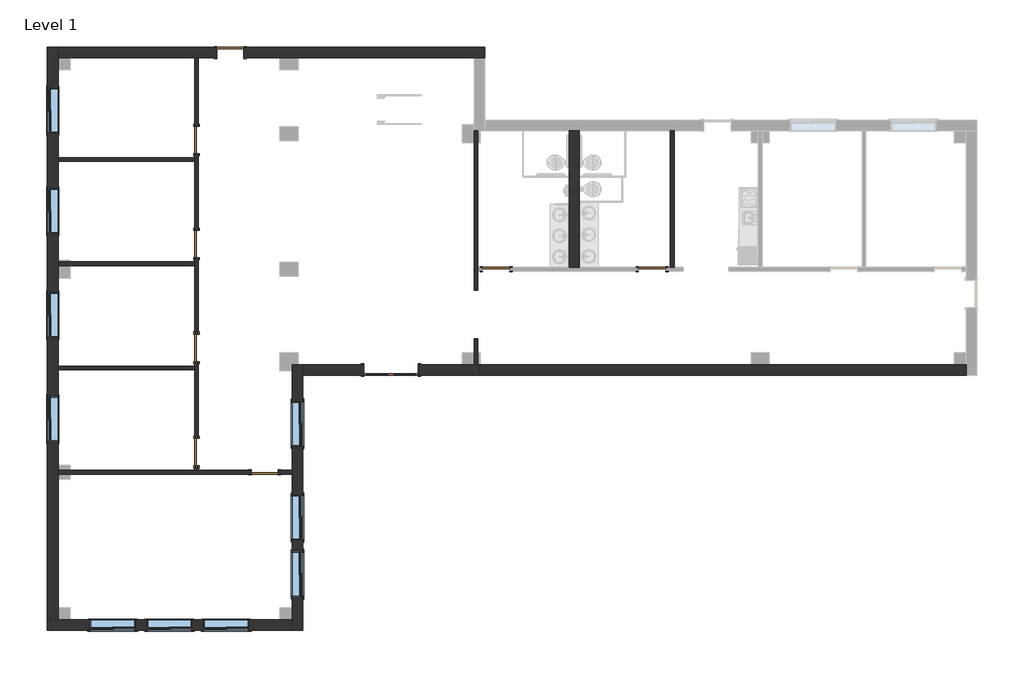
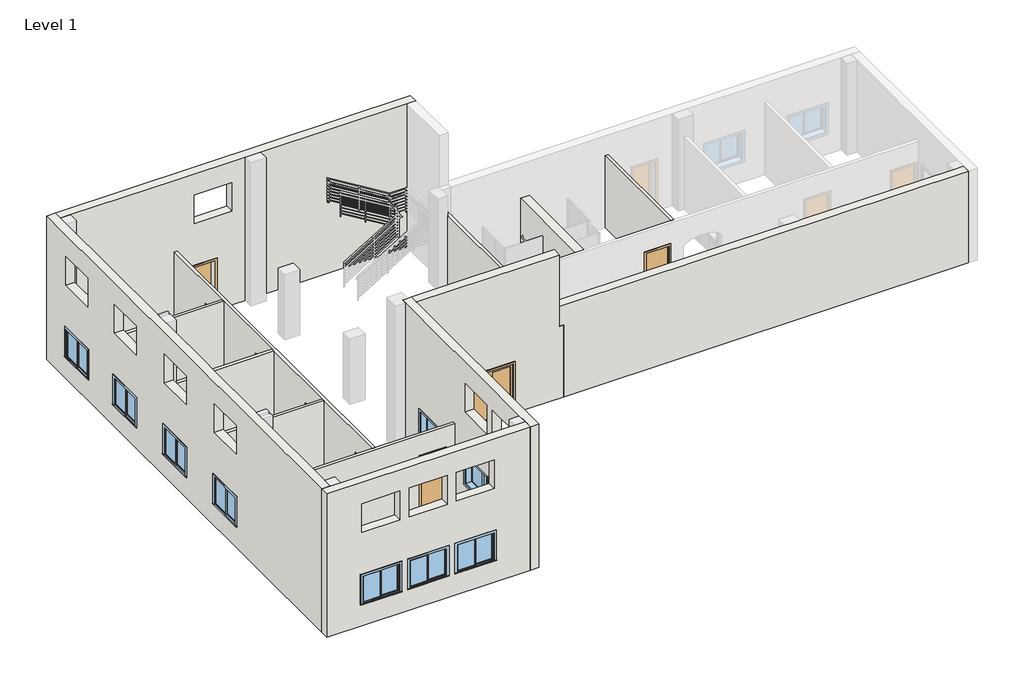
# One storey, part 1 of 2: 15 walls, 10 windows, 9 doors.
"""IFC4 building model written with IfcOpenShell, lengths in millimetres."""

from ifc_helpers import new_model, si_unit, origin, origin_with_axes, place, context, project, spatial, polyline, outline, extrude, faceted_brep, transform, mapped, element, save
from components import door_ed2c6a3f, door_cc5399a4, door_eb9f8b14, door_88503111, window_8313e728

model = new_model("IFC4")

# Units and contexts
model_context = context("Model", 3, world=origin())
ifc_project = project(units=[si_unit("LENGTHUNIT", "METRE", prefix="MILLI")], contexts=[model_context])

# Site, building, storey
site = spatial("IfcSite", under=ifc_project)
building = spatial("IfcBuilding", under=site)
storey = spatial("IfcBuildingStorey", under=building, Name="Level 1", Elevation=0.0)

# Doors
placement = place(None, origin())
door_shape = door_ed2c6a3f(model_context)
element("IfcDoor", 1, ObjectType="Double-Glass 1 : 72\" x 84\"", at=placement, inside=storey, context=model_context, shape_type="MappedRepresentation", body=[
    mapped(door_shape, transform((-2441.8329052, 126.9792924, 0.0), x_axis=(-1.0, 0.0, 0.0), y_axis=(0.0, -1.0, 0.0), z_axis=(0.0, 0.0, 1.0))),
])
door_2_shape = door_cc5399a4(model_context)
element("IfcDoor", 2, ObjectType="Single-Flush : 36\" x 84\"", at=placement, inside=storey, context=model_context, shape_type="MappedRepresentation", body=[
    mapped(door_2_shape, transform((-7821.0766552, 10744.9730424, 0.0), x_axis=(-1.0, 0.0, 0.0), y_axis=(0.0, -1.0, 0.0), z_axis=(0.0, 0.0, 1.0))),
])
door_3_shape = door_eb9f8b14(model_context)
element("IfcDoor", 3, ObjectType="Single-Flush : 36\" x 84\"", at=placement, inside=storey, context=model_context, shape_type="MappedRepresentation", body=[
    mapped(door_3_shape, transform((-6668.5516552, -3294.8769576, 0.0), x_axis=(1.0, 0.0, 0.0), y_axis=(0.0, 1.0, 0.0), z_axis=(0.0, 0.0, 1.0))),
])
element("IfcDoor", 4, ObjectType="Single-Flush : 36\" x 84\"", at=placement, inside=storey, context=model_context, shape_type="MappedRepresentation", body=[
    mapped(door_3_shape, transform((-8949.7891552, -2623.3644576, 0.0), x_axis=(0.0, -1.0, 0.0), y_axis=(1.0, 0.0, 0.0), z_axis=(0.0, 0.0, 1.0))),
])
element("IfcDoor", 5, ObjectType="Single-Flush : 36\" x 84\"", at=placement, inside=storey, context=model_context, shape_type="MappedRepresentation", body=[
    mapped(door_3_shape, transform((-8949.7891552, 862.7855424, 0.0), x_axis=(0.0, -1.0, 0.0), y_axis=(1.0, 0.0, 0.0), z_axis=(0.0, 0.0, 1.0))),
])
element("IfcDoor", 6, ObjectType="Single-Flush : 36\" x 84\"", at=placement, inside=storey, context=model_context, shape_type="MappedRepresentation", body=[
    mapped(door_3_shape, transform((-8949.7891552, 4339.4105424, 0.0), x_axis=(0.0, -1.0, 0.0), y_axis=(1.0, 0.0, 0.0), z_axis=(0.0, 0.0, 1.0))),
])
element("IfcDoor", 7, ObjectType="Single-Flush : 36\" x 84\"", at=placement, inside=storey, context=model_context, shape_type="MappedRepresentation", body=[
    mapped(door_3_shape, transform((-8949.7891552, 7820.7980424, 0.0), x_axis=(0.0, -1.0, 0.0), y_axis=(1.0, 0.0, 0.0), z_axis=(0.0, 0.0, 1.0))),
])
element("IfcDoor", 8, ObjectType="Single-Flush : 36\" x 84\"", at=placement, inside=storey, context=model_context, shape_type="MappedRepresentation", body=[
    mapped(door_3_shape, transform((1075.2733448, 3496.4480424, 0.0), x_axis=(-1.0, 0.0, 0.0), y_axis=(0.0, -1.0, 0.0), z_axis=(0.0, 0.0, 1.0))),
])
door_4_shape = door_88503111(model_context)
element("IfcDoor", 9, ObjectType="Single-Flush : 36\" x 84\"", at=placement, inside=storey, context=model_context, shape_type="MappedRepresentation", body=[
    mapped(door_4_shape, transform((6294.9733448, 3496.4480424, 0.0), x_axis=(1.0, 0.0, 0.0), y_axis=(0.0, 1.0, 0.0), z_axis=(0.0, 0.0, 1.0))),
])

# Walls
element("IfcWall", 10, ObjectType="Exterior - Brick on Mtl. Stud", at=placement, inside=storey, context=model_context, shape_type="Brep", body=[
    faceted_brep([(-5754.1516552, 300.8105424, 0.0), (-5754.1516552, 97.6105424, 0.0), (-5754.1516552, -3232.9644576, 0.0), (-5754.1516552, -3356.7894576, 0.0), (-5754.1516552, -7827.1894576, 0.0), (-5754.1516552, -8233.5894576, 0.0), (-5754.1516552, -8586.0144576, 0.0), (-5754.1516552, -8586.0144576, 6100.0), (-5754.1516552, -8233.5894576, 6100.0), (-5754.1516552, -7827.1894576, 6100.0), (-5754.1516552, -3356.7894576, 6100.0), (-5754.1516552, -3232.9644576, 6100.0), (-5754.1516552, 97.6105424, 6100.0), (-5754.1516552, 300.8105424, 6100.0), (-5754.1516552, -7471.5894576, 2133.6), (-5754.1516552, -7471.5894576, 914.4), (-5754.1516552, -5947.5894576, 914.4), (-5754.1516552, -5947.5894576, 2133.6), (-5754.1516552, -5572.9394576, 2133.6), (-5754.1516552, -5572.9394576, 914.4), (-5754.1516552, -4048.9394576, 914.4), (-5754.1516552, -4048.9394576, 2133.6), (-5754.1516552, -2439.2144576, 2133.6), (-5754.1516552, -2439.2144576, 914.4), (-5754.1516552, -915.2144576, 914.4), (-5754.1516552, -915.2144576, 2133.6), (-5754.1516552, -5572.9394576, 5193.6), (-5754.1516552, -5572.9394576, 3974.4), (-5754.1516552, -4048.9394576, 3974.4), (-5754.1516552, -4048.9394576, 5193.6), (-5754.1516552, -7471.5894576, 5193.6), (-5754.1516552, -7471.5894576, 3974.4), (-5754.1516552, -5947.5894576, 3974.4), (-5754.1516552, -5947.5894576, 5193.6), (-5401.7266552, 300.8105424, 0.0), (-5401.7266552, 300.8105424, 6100.0), (-5401.7266552, -51.6144576, 6100.0), (-5401.7266552, -8586.0144576, 6100.0), (-5401.7266552, -8586.0144576, 0.0), (-5401.7266552, -51.6144576, 0.0), (-5401.7266552, -7471.5894576, 2133.6), (-5401.7266552, -5947.5894576, 2133.6), (-5401.7266552, -5947.5894576, 914.4), (-5401.7266552, -7471.5894576, 914.4), (-5401.7266552, -5572.9394576, 2133.6), (-5401.7266552, -4048.9394576, 2133.6), (-5401.7266552, -4048.9394576, 914.4), (-5401.7266552, -5572.9394576, 914.4), (-5401.7266552, -2439.2144576, 2133.6), (-5401.7266552, -915.2144576, 2133.6), (-5401.7266552, -915.2144576, 914.4), (-5401.7266552, -2439.2144576, 914.4), (-5401.7266552, -5572.9394576, 5193.6), (-5401.7266552, -4048.9394576, 5193.6), (-5401.7266552, -4048.9394576, 3974.4), (-5401.7266552, -5572.9394576, 3974.4), (-5401.7266552, -7471.5894576, 5193.6), (-5401.7266552, -5947.5894576, 5193.6), (-5401.7266552, -5947.5894576, 3974.4), (-5401.7266552, -7471.5894576, 3974.4), (-5550.9516552, 300.8105424, 0.0), (-5550.9516552, 300.8105424, 6100.0)], [[[0, 1, 2, 3, 4, 5, 6, 7, 8, 9, 10, 11, 12, 13], [14, 15, 16, 17], [18, 19, 20, 21], [22, 23, 24, 25], [26, 27, 28, 29], [30, 31, 32, 33]], [[34, 35, 36, 37, 38, 39], [40, 41, 42, 43], [44, 45, 46, 47], [48, 49, 50, 51], [52, 53, 54, 55], [56, 57, 58, 59]], [[6, 5, 4, 3, 2, 1, 0, 60, 34, 39, 38]], [[13, 12, 11, 10, 9, 8, 7, 37, 36, 35, 61]], [[15, 14, 40, 43]], [[16, 15, 43, 42]], [[17, 16, 42, 41]], [[14, 17, 41, 40]], [[19, 18, 44, 47]], [[20, 19, 47, 46]], [[21, 20, 46, 45]], [[18, 21, 45, 44]], [[23, 22, 48, 51]], [[24, 23, 51, 50]], [[25, 24, 50, 49]], [[22, 25, 49, 48]], [[27, 26, 52, 55]], [[28, 27, 55, 54]], [[29, 28, 54, 53]], [[26, 29, 53, 52]], [[31, 30, 56, 59]], [[32, 31, 59, 58]], [[33, 32, 58, 57]], [[30, 33, 57, 56]], [[0, 13, 61, 35, 34, 60]], [[7, 6, 38, 37]]]),
])
element("IfcWall", 11, ObjectType="Exterior - Brick on Mtl. Stud", at=placement, inside=storey, context=model_context, shape_type="Brep", body=[
    faceted_brep([(-5754.1516552, -8233.5894576, 0.0), (-6160.5516552, -8233.5894576, 0.0), (-13177.3016552, -8233.5894576, 0.0), (-13583.7016552, -8233.5894576, 0.0), (-13936.1266552, -8233.5894576, 0.0), (-13936.1266552, -8233.5894576, 6100.0), (-13583.7016552, -8233.5894576, 6100.0), (-13177.3016552, -8233.5894576, 6100.0), (-6160.5516552, -8233.5894576, 6100.0), (-5754.1516552, -8233.5894576, 6100.0), (-12516.9016552, -8233.5894576, 2133.6), (-12516.9016552, -8233.5894576, 914.4), (-10992.9016552, -8233.5894576, 914.4), (-10992.9016552, -8233.5894576, 2133.6), (-10618.2516552, -8233.5894576, 2133.6), (-10618.2516552, -8233.5894576, 914.4), (-9094.2516552, -8233.5894576, 914.4), (-9094.2516552, -8233.5894576, 2133.6), (-8719.6016552, -8233.5894576, 2133.6), (-8719.6016552, -8233.5894576, 914.4), (-7195.6016552, -8233.5894576, 914.4), (-7195.6016552, -8233.5894576, 2133.6), (-8719.6016552, -8233.5894576, 5193.6), (-8719.6016552, -8233.5894576, 3974.4), (-7195.6016552, -8233.5894576, 3974.4), (-7195.6016552, -8233.5894576, 5193.6), (-10618.2516552, -8233.5894576, 5193.6), (-10618.2516552, -8233.5894576, 3974.4), (-9094.2516552, -8233.5894576, 3974.4), (-9094.2516552, -8233.5894576, 5193.6), (-12516.9016552, -8233.5894576, 5193.6), (-12516.9016552, -8233.5894576, 3974.4), (-10992.9016552, -8233.5894576, 3974.4), (-10992.9016552, -8233.5894576, 5193.6), (-5754.1516552, -8586.0144576, 0.0), (-5754.1516552, -8586.0144576, 6100.0), (-13936.1266552, -8586.0144576, 6100.0), (-13936.1266552, -8586.0144576, 0.0), (-12516.9016552, -8586.0144576, 2133.6), (-10992.9016552, -8586.0144576, 2133.6), (-10992.9016552, -8586.0144576, 914.4), (-12516.9016552, -8586.0144576, 914.4), (-10618.2516552, -8586.0144576, 2133.6), (-9094.2516552, -8586.0144576, 2133.6), (-9094.2516552, -8586.0144576, 914.4), (-10618.2516552, -8586.0144576, 914.4), (-8719.6016552, -8586.0144576, 2133.6), (-7195.6016552, -8586.0144576, 2133.6), (-7195.6016552, -8586.0144576, 914.4), (-8719.6016552, -8586.0144576, 914.4), (-8719.6016552, -8586.0144576, 5193.6), (-7195.6016552, -8586.0144576, 5193.6), (-7195.6016552, -8586.0144576, 3974.4), (-8719.6016552, -8586.0144576, 3974.4), (-10618.2516552, -8586.0144576, 5193.6), (-9094.2516552, -8586.0144576, 5193.6), (-9094.2516552, -8586.0144576, 3974.4), (-10618.2516552, -8586.0144576, 3974.4), (-12516.9016552, -8586.0144576, 5193.6), (-10992.9016552, -8586.0144576, 5193.6), (-10992.9016552, -8586.0144576, 3974.4), (-12516.9016552, -8586.0144576, 3974.4)], [[[0, 1, 2, 3, 4, 5, 6, 7, 8, 9], [10, 11, 12, 13], [14, 15, 16, 17], [18, 19, 20, 21], [22, 23, 24, 25], [26, 27, 28, 29], [30, 31, 32, 33]], [[34, 35, 36, 37], [38, 39, 40, 41], [42, 43, 44, 45], [46, 47, 48, 49], [50, 51, 52, 53], [54, 55, 56, 57], [58, 59, 60, 61]], [[4, 3, 2, 1, 0, 34, 37]], [[9, 8, 7, 6, 5, 36, 35]], [[11, 10, 38, 41]], [[12, 11, 41, 40]], [[13, 12, 40, 39]], [[10, 13, 39, 38]], [[15, 14, 42, 45]], [[16, 15, 45, 44]], [[17, 16, 44, 43]], [[14, 17, 43, 42]], [[19, 18, 46, 49]], [[20, 19, 49, 48]], [[21, 20, 48, 47]], [[18, 21, 47, 46]], [[23, 22, 50, 53]], [[24, 23, 53, 52]], [[25, 24, 52, 51]], [[22, 25, 51, 50]], [[27, 26, 54, 57]], [[28, 27, 57, 56]], [[29, 28, 56, 55]], [[26, 29, 55, 54]], [[31, 30, 58, 61]], [[32, 31, 61, 60]], [[33, 32, 60, 59]], [[30, 33, 59, 58]], [[5, 4, 37, 36]], [[0, 9, 35, 34]]]),
])
element("IfcWall", 12, ObjectType="Exterior - Brick on Mtl. Stud", at=placement, inside=storey, context=model_context, shape_type="Brep", body=[
    faceted_brep([(-13583.7016552, -8233.5894576, 0.0), (-13583.7016552, -7827.1894576, 0.0), (-13583.7016552, -3523.4769576, 0.0), (-13583.7016552, -3356.7894576, 0.0), (-13583.7016552, -3232.9644576, 0.0), (-13583.7016552, -3066.2769576, 0.0), (-13583.7016552, 131.3449174, 0.0), (-13583.7016552, 255.1699174, 0.0), (-13583.7016552, 3191.6480424, 0.0), (-13583.7016552, 3619.4792924, 0.0), (-13583.7016552, 3743.3042924, 0.0), (-13583.7016552, 3801.2480424, 0.0), (-13583.7016552, 7107.6136674, 0.0), (-13583.7016552, 7231.4386674, 0.0), (-13583.7016552, 10162.3605424, 0.0), (-13583.7016552, 10568.7605424, 0.0), (-13583.7016552, 10921.1855424, 0.0), (-13583.7016552, 10921.1855424, 6100.0), (-13583.7016552, 10568.7605424, 6100.0), (-13583.7016552, 10162.3605424, 6100.0), (-13583.7016552, 7211.1980424, 6100.0), (-13583.7016552, 7087.3730424, 6100.0), (-13583.7016552, 3801.2480424, 6100.0), (-13583.7016552, 3729.8105424, 6100.0), (-13583.7016552, 3605.9855424, 6100.0), (-13583.7016552, 3191.6480424, 6100.0), (-13583.7016552, 248.4230424, 6100.0), (-13583.7016552, 124.5980424, 6100.0), (-13583.7016552, -3066.2769576, 6100.0), (-13583.7016552, -3232.9644576, 6100.0), (-13583.7016552, -3356.7894576, 6100.0), (-13583.7016552, -3523.4769576, 6100.0), (-13583.7016552, -7827.1894576, 6100.0), (-13583.7016552, -8233.5894576, 6100.0), (-13583.7016552, -757.2582076, 2133.6), (-13583.7016552, -757.2582076, 914.4), (-13583.7016552, -2281.2582076, 914.4), (-13583.7016552, -2281.2582076, 2133.6), (-13583.7016552, 2724.1292924, 2133.6), (-13583.7016552, 2724.1292924, 914.4), (-13583.7016552, 1200.1292924, 914.4), (-13583.7016552, 1200.1292924, 2133.6), (-13583.7016552, 6205.5167924, 2133.6), (-13583.7016552, 6205.5167924, 914.4), (-13583.7016552, 4681.5167924, 914.4), (-13583.7016552, 4681.5167924, 2133.6), (-13583.7016552, 9567.0480424, 2133.6), (-13583.7016552, 9567.0480424, 914.4), (-13583.7016552, 8043.0480424, 914.4), (-13583.7016552, 8043.0480424, 2133.6), (-13583.7016552, 9567.0480424, 5193.6), (-13583.7016552, 9567.0480424, 3974.4), (-13583.7016552, 8043.0480424, 3974.4), (-13583.7016552, 8043.0480424, 5193.6), (-13583.7016552, 6205.5167924, 5193.6), (-13583.7016552, 6205.5167924, 3974.4), (-13583.7016552, 4681.5167924, 3974.4), (-13583.7016552, 4681.5167924, 5193.6), (-13583.7016552, 2724.1292924, 5193.6), (-13583.7016552, 2724.1292924, 3974.4), (-13583.7016552, 1200.1292924, 3974.4), (-13583.7016552, 1200.1292924, 5193.6), (-13583.7016552, -757.2582076, 5193.6), (-13583.7016552, -757.2582076, 3974.4), (-13583.7016552, -2281.2582076, 3974.4), (-13583.7016552, -2281.2582076, 5193.6), (-13936.1266552, -8233.5894576, 0.0), (-13936.1266552, -8233.5894576, 6100.0), (-13936.1266552, 10921.1855424, 6100.0), (-13936.1266552, 10921.1855424, 0.0), (-13936.1266552, -757.2582076, 2133.6), (-13936.1266552, -2281.2582076, 2133.6), (-13936.1266552, -2281.2582076, 914.4), (-13936.1266552, -757.2582076, 914.4), (-13936.1266552, 2724.1292924, 2133.6), (-13936.1266552, 1200.1292924, 2133.6), (-13936.1266552, 1200.1292924, 914.4), (-13936.1266552, 2724.1292924, 914.4), (-13936.1266552, 6205.5167924, 2133.6), (-13936.1266552, 4681.5167924, 2133.6), (-13936.1266552, 4681.5167924, 914.4), (-13936.1266552, 6205.5167924, 914.4), (-13936.1266552, 9567.0480424, 2133.6), (-13936.1266552, 8043.0480424, 2133.6), (-13936.1266552, 8043.0480424, 914.4), (-13936.1266552, 9567.0480424, 914.4), (-13936.1266552, 9567.0480424, 5193.6), (-13936.1266552, 8043.0480424, 5193.6), (-13936.1266552, 8043.0480424, 3974.4), (-13936.1266552, 9567.0480424, 3974.4), (-13936.1266552, 6205.5167924, 5193.6), (-13936.1266552, 4681.5167924, 5193.6), (-13936.1266552, 4681.5167924, 3974.4), (-13936.1266552, 6205.5167924, 3974.4), (-13936.1266552, 2724.1292924, 5193.6), (-13936.1266552, 1200.1292924, 5193.6), (-13936.1266552, 1200.1292924, 3974.4), (-13936.1266552, 2724.1292924, 3974.4), (-13936.1266552, -757.2582076, 5193.6), (-13936.1266552, -2281.2582076, 5193.6), (-13936.1266552, -2281.2582076, 3974.4), (-13936.1266552, -757.2582076, 3974.4)], [[[0, 1, 2, 3, 4, 5, 6, 7, 8, 9, 10, 11, 12, 13, 14, 15, 16, 17, 18, 19, 20, 21, 22, 23, 24, 25, 26, 27, 28, 29, 30, 31, 32, 33], [34, 35, 36, 37], [38, 39, 40, 41], [42, 43, 44, 45], [46, 47, 48, 49], [50, 51, 52, 53], [54, 55, 56, 57], [58, 59, 60, 61], [62, 63, 64, 65]], [[66, 67, 68, 69], [70, 71, 72, 73], [74, 75, 76, 77], [78, 79, 80, 81], [82, 83, 84, 85], [86, 87, 88, 89], [90, 91, 92, 93], [94, 95, 96, 97], [98, 99, 100, 101]], [[16, 15, 14, 13, 12, 11, 10, 9, 8, 7, 6, 5, 4, 3, 2, 1, 0, 66, 69]], [[33, 32, 31, 30, 29, 28, 27, 26, 25, 24, 23, 22, 21, 20, 19, 18, 17, 68, 67]], [[35, 34, 70, 73]], [[36, 35, 73, 72]], [[37, 36, 72, 71]], [[34, 37, 71, 70]], [[39, 38, 74, 77]], [[40, 39, 77, 76]], [[41, 40, 76, 75]], [[38, 41, 75, 74]], [[43, 42, 78, 81]], [[44, 43, 81, 80]], [[45, 44, 80, 79]], [[42, 45, 79, 78]], [[47, 46, 82, 85]], [[48, 47, 85, 84]], [[49, 48, 84, 83]], [[46, 49, 83, 82]], [[51, 50, 86, 89]], [[52, 51, 89, 88]], [[53, 52, 88, 87]], [[50, 53, 87, 86]], [[55, 54, 90, 93]], [[56, 55, 93, 92]], [[57, 56, 92, 91]], [[54, 57, 91, 90]], [[59, 58, 94, 97]], [[60, 59, 97, 96]], [[61, 60, 96, 95]], [[58, 61, 95, 94]], [[63, 62, 98, 101]], [[64, 63, 101, 100]], [[65, 64, 100, 99]], [[62, 65, 99, 98]], [[17, 16, 69, 68]], [[0, 33, 67, 66]]]),
])
element("IfcWall", 13, ObjectType="Exterior - Brick on Mtl. Stud", at=placement, inside=storey, context=model_context, shape_type="Brep", body=[
    faceted_brep([(-13583.7016552, 10568.7605424, 0.0), (-13177.3016552, 10568.7605424, 0.0), (-9011.7016552, 10568.7605424, 0.0), (-8887.8766552, 10568.7605424, 0.0), (-8278.2766552, 10568.7605424, 0.0), (-8278.2766552, 10568.7605424, 2133.6), (-7363.8766552, 10568.7605424, 2133.6), (-7363.8766552, 10568.7605424, 0.0), (-6160.5516552, 10568.7605424, 0.0), (-5550.9516552, 10568.7605424, 0.0), (341.8483448, 10568.7605424, 0.0), (694.2733448, 10568.7605424, 0.0), (694.2733448, 10568.7605424, 6100.0), (341.8483448, 10568.7605424, 6100.0), (-5550.9516552, 10568.7605424, 6100.0), (-6160.5516552, 10568.7605424, 6100.0), (-8887.8766552, 10568.7605424, 6100.0), (-9011.7016552, 10568.7605424, 6100.0), (-13177.3016552, 10568.7605424, 6100.0), (-13583.7016552, 10568.7605424, 6100.0), (-6684.4266552, 10568.7605424, 5193.6), (-6684.4266552, 10568.7605424, 3974.4), (-8208.4266552, 10568.7605424, 3974.4), (-8208.4266552, 10568.7605424, 5193.6), (-8278.2766552, 10921.1855424, 2133.6), (-8278.2766552, 10921.1855424, 0.0), (-13583.7016552, 10921.1855424, 0.0), (-13583.7016552, 10921.1855424, 6100.0), (694.2733448, 10921.1855424, 6100.0), (694.2733448, 10921.1855424, 0.0), (-7363.8766552, 10921.1855424, 0.0), (-7363.8766552, 10921.1855424, 2133.6), (-6684.4266552, 10921.1855424, 5193.6), (-8208.4266552, 10921.1855424, 5193.6), (-8208.4266552, 10921.1855424, 3974.4), (-6684.4266552, 10921.1855424, 3974.4)], [[[0, 1, 2, 3, 4, 5, 6, 7, 8, 9, 10, 11, 12, 13, 14, 15, 16, 17, 18, 19], [20, 21, 22, 23]], [[24, 25, 26, 27, 28, 29, 30, 31], [32, 33, 34, 35]], [[30, 29, 11, 10, 9, 8, 7]], [[26, 25, 4, 3, 2, 1, 0]], [[19, 18, 17, 16, 15, 14, 13, 12, 28, 27]], [[5, 4, 25, 24]], [[6, 5, 24, 31]], [[7, 6, 31, 30]], [[21, 20, 32, 35]], [[22, 21, 35, 34]], [[23, 22, 34, 33]], [[20, 23, 33, 32]], [[12, 11, 29, 28]], [[0, 19, 27, 26]]]),
])
element("IfcWall", 14, ObjectType="Exterior - Brick on Mtl. Stud", at=placement, inside=storey, context=model_context, shape_type="Brep", body=[
    faceted_brep([(16801.0483448, 300.8105424, 0.0), (16394.6483448, 300.8105424, 0.0), (10214.5108448, 300.8105424, 0.0), (9604.9108448, 300.8105424, 0.0), (545.0483448, 300.8105424, 0.0), (518.0608448, 300.8105424, 0.0), (518.0608448, 300.8105424, 3060.0), (341.8483448, 300.8105424, 3060.0), (341.8483448, 300.8105424, 3900.0), (694.2733448, 300.8105424, 3900.0), (9604.9108448, 300.8105424, 3900.0), (10214.5108448, 300.8105424, 3900.0), (16394.6483448, 300.8105424, 3900.0), (16801.0483448, 300.8105424, 3900.0), (16801.0483448, -51.6144576, 0.0), (16801.0483448, -51.6144576, 3900.0), (694.2733448, -51.6144576, 3900.0), (341.8483448, -51.6144576, 3900.0), (341.8483448, -51.6144576, 3060.0), (518.0608448, -51.6144576, 3060.0), (518.0608448, -51.6144576, 0.0)], [[[0, 1, 2, 3, 4, 5, 6, 7, 8, 9, 10, 11, 12, 13]], [[14, 15, 16, 17, 18, 19, 20]], [[5, 4, 3, 2, 1, 0, 14, 20]], [[13, 12, 11, 10, 9, 8, 17, 16, 15]], [[6, 5, 20, 19]], [[18, 7, 6, 19]], [[8, 7, 18, 17]], [[0, 13, 15, 14]]]),
])
element("IfcWall", 15, ObjectType="Exterior - Brick on Mtl. Stud", at=placement, inside=storey, context=model_context, shape_type="Brep", body=[
    faceted_brep([(-3356.2329052, 300.8105424, 2133.6), (-3356.2329052, 300.8105424, 0.0), (-5401.7266552, 300.8105424, 0.0), (-5401.7266552, 300.8105424, 6100.0), (341.8483448, 300.8105424, 6100.0), (341.8483448, 300.8105424, 3900.0), (341.8483448, 300.8105424, 3060.0), (465.6733448, 300.8105424, 3060.0), (518.0608448, 300.8105424, 3060.0), (518.0608448, 300.8105424, 0.0), (465.6733448, 300.8105424, 0.0), (341.8483448, 300.8105424, 0.0), (-64.5516552, 300.8105424, 0.0), (-1527.4329052, 300.8105424, 0.0), (-1527.4329052, 300.8105424, 2133.6), (-5401.7266552, -51.6144576, 0.0), (-3356.2329052, -51.6144576, 0.0), (-3356.2329052, -51.6144576, 2133.6), (-1527.4329052, -51.6144576, 2133.6), (-1527.4329052, -51.6144576, 0.0), (518.0608448, -51.6144576, 0.0), (518.0608448, -51.6144576, 3060.0), (341.8483448, -51.6144576, 3060.0), (341.8483448, -51.6144576, 3900.0), (341.8483448, -51.6144576, 6100.0), (-5401.7266552, -51.6144576, 6100.0)], [[[0, 1, 2, 3, 4, 5, 6, 7, 8, 9, 10, 11, 12, 13, 14]], [[15, 16, 17, 18, 19, 20, 21, 22, 23, 24, 25]], [[2, 1, 16, 15]], [[13, 12, 11, 10, 9, 20, 19]], [[4, 3, 25, 24]], [[3, 2, 15, 25]], [[9, 8, 21, 20]], [[6, 22, 21, 8, 7]], [[6, 5, 4, 24, 23, 22]], [[17, 16, 1, 0]], [[18, 17, 0, 14]], [[19, 18, 14, 13]]]),
])
element("IfcWall", 16, ObjectType="Interior - 4 7/8\" Partition (1-hr)", at=placement, inside=storey, context=model_context, shape_type="Brep", body=[
    faceted_brep([(-8887.8766552, 4796.6105424, 0.0), (-8887.8766552, 7363.5980424, 0.0), (-8887.8766552, 7363.5980424, 2133.6), (-8887.8766552, 8277.9980424, 2133.6), (-8887.8766552, 8277.9980424, 0.0), (-8887.8766552, 10568.7605424, 0.0), (-8887.8766552, 10568.7605424, 3060.0), (-8887.8766552, -3232.9644576, 3060.0), (-8887.8766552, -3232.9644576, 0.0), (-8887.8766552, -3080.5644576, 0.0), (-8887.8766552, -3080.5644576, 2133.6), (-8887.8766552, -2166.1644576, 2133.6), (-8887.8766552, -2166.1644576, 0.0), (-8887.8766552, 405.5855424, 0.0), (-8887.8766552, 405.5855424, 2133.6), (-8887.8766552, 1319.9855424, 2133.6), (-8887.8766552, 1319.9855424, 0.0), (-8887.8766552, 3882.2105424, 0.0), (-8887.8766552, 3882.2105424, 2133.6), (-8887.8766552, 4796.6105424, 2133.6), (-9011.7016552, 7363.5980424, 2133.6), (-9011.7016552, 7363.5980424, 0.0), (-9011.7016552, 7231.4386674, 0.0), (-9011.7016552, 7107.6136674, 0.0), (-9011.7016552, 4796.6105424, 0.0), (-9011.7016552, 4796.6105424, 2133.6), (-9011.7016552, 3882.2105424, 2133.6), (-9011.7016552, 3882.2105424, 0.0), (-9011.7016552, 3743.3042924, 0.0), (-9011.7016552, 3619.4792924, 0.0), (-9011.7016552, 1319.9855424, 0.0), (-9011.7016552, 1319.9855424, 2133.6), (-9011.7016552, 405.5855424, 2133.6), (-9011.7016552, 405.5855424, 0.0), (-9011.7016552, 255.1699174, 0.0), (-9011.7016552, 131.3449174, 0.0), (-9011.7016552, -2166.1644576, 0.0), (-9011.7016552, -2166.1644576, 2133.6), (-9011.7016552, -3080.5644576, 2133.6), (-9011.7016552, -3080.5644576, 0.0), (-9011.7016552, -3232.9644576, 0.0), (-9011.7016552, -3232.9644576, 3060.0), (-9011.7016552, 131.3449174, 3060.0), (-9011.7016552, 255.1699174, 3060.0), (-9011.7016552, 3619.4792924, 3060.0), (-9011.7016552, 3743.3042924, 3060.0), (-9011.7016552, 7107.6136674, 3060.0), (-9011.7016552, 7231.4386674, 3060.0), (-9011.7016552, 10568.7605424, 3060.0), (-9011.7016552, 10568.7605424, 0.0), (-9011.7016552, 8277.9980424, 0.0), (-9011.7016552, 8277.9980424, 2133.6)], [[[0, 1, 2, 3, 4, 5, 6, 7, 8, 9, 10, 11, 12, 13, 14, 15, 16, 17, 18, 19]], [[20, 21, 22, 23, 24, 25, 26, 27, 28, 29, 30, 31, 32, 33, 34, 35, 36, 37, 38, 39, 40, 41, 42, 43, 44, 45, 46, 47, 48, 49, 50, 51]], [[40, 39, 9, 8]], [[36, 35, 34, 33, 13, 12]], [[30, 29, 28, 27, 17, 16]], [[50, 49, 5, 4]], [[24, 23, 22, 21, 1, 0]], [[7, 6, 48, 47, 46, 45, 44, 43, 42, 41]], [[8, 7, 41, 40]], [[10, 9, 39, 38]], [[11, 10, 38, 37]], [[12, 11, 37, 36]], [[14, 13, 33, 32]], [[15, 14, 32, 31]], [[16, 15, 31, 30]], [[18, 17, 27, 26]], [[19, 18, 26, 25]], [[0, 19, 25, 24]], [[2, 1, 21, 20]], [[3, 2, 20, 51]], [[4, 3, 51, 50]], [[6, 5, 49, 48]]]),
])
element("IfcWall", 17, ObjectType="Interior - 4 7/8\" Partition (1-hr)", at=placement, inside=storey, context=model_context, shape_type="SweptSolid", body=[
    extrude(outline(polyline([(6904.5733448, 3558.3605424), (6904.5733448, 8130.3605424), (7028.3983448, 8130.3605424), (7028.3983448, 3558.3605424), (6904.5733448, 3558.3605424)])), origin_with_axes(), (0.0, 0.0, 1.0), 3060.0),
])
element("IfcWall", 18, ObjectType="Interior - 4 7/8\" Partition (1-hr)", at=placement, inside=storey, context=model_context, shape_type="Brep", body=[
    faceted_brep([(-6211.3516552, -3356.7894576, 2133.6), (-6211.3516552, -3356.7894576, 0.0), (-5754.1516552, -3356.7894576, 0.0), (-5754.1516552, -3356.7894576, 3060.0), (-13583.7016552, -3356.7894576, 3060.0), (-13583.7016552, -3356.7894576, 0.0), (-13177.3016552, -3356.7894576, 0.0), (-7125.7516552, -3356.7894576, 0.0), (-7125.7516552, -3356.7894576, 2133.6), (-5754.1516552, -3232.9644576, 0.0), (-6211.3516552, -3232.9644576, 0.0), (-6211.3516552, -3232.9644576, 2133.6), (-7125.7516552, -3232.9644576, 2133.6), (-7125.7516552, -3232.9644576, 0.0), (-8887.8766552, -3232.9644576, 0.0), (-9011.7016552, -3232.9644576, 0.0), (-13177.3016552, -3232.9644576, 0.0), (-13583.7016552, -3232.9644576, 0.0), (-13583.7016552, -3232.9644576, 3060.0), (-9011.7016552, -3232.9644576, 3060.0), (-8887.8766552, -3232.9644576, 3060.0), (-5754.1516552, -3232.9644576, 3060.0)], [[[0, 1, 2, 3, 4, 5, 6, 7, 8]], [[9, 10, 11, 12, 13, 14, 15, 16, 17, 18, 19, 20, 21]], [[2, 1, 10, 9]], [[7, 6, 5, 17, 16, 15, 14, 13]], [[4, 3, 21, 20, 19, 18]], [[11, 10, 1, 0]], [[12, 11, 0, 8]], [[13, 12, 8, 7]], [[3, 2, 9, 21]], [[5, 4, 18, 17]]]),
])
element("IfcWall", 19, ObjectType="Interior - 4 7/8\" Partition (1-hr)", at=placement, inside=storey, context=model_context, shape_type="SweptSolid", body=[
    extrude(outline(polyline([(-9011.7016552, 131.3449174), (-13583.7016552, 131.3449174), (-13583.7016552, 255.1699174), (-9011.7016552, 255.1699174), (-9011.7016552, 131.3449174)])), origin_with_axes(), (0.0, 0.0, 1.0), 3060.0),
])
element("IfcWall", 20, ObjectType="Interior - 4 7/8\" Partition (1-hr)", at=placement, inside=storey, context=model_context, shape_type="Brep", body=[
    faceted_brep([(-13583.7016552, 3619.4792924, 0.0), (-13177.3016552, 3619.4792924, 0.0), (-9011.7016552, 3619.4792924, 0.0), (-9011.7016552, 3619.4792924, 3060.0), (-13177.3016552, 3619.4792924, 3060.0), (-13583.7016552, 3619.4792924, 3060.0), (-13583.7016552, 3743.3042924, 0.0), (-13583.7016552, 3743.3042924, 3060.0), (-13177.3016552, 3743.3042924, 3060.0), (-9011.7016552, 3743.3042924, 3060.0), (-9011.7016552, 3743.3042924, 0.0), (-13177.3016552, 3743.3042924, 0.0), (-13583.7016552, 3729.8105424, 3060.0)], [[[0, 1, 2, 3, 4, 5]], [[6, 7, 8, 9, 10, 11]], [[2, 1, 0, 6, 11, 10]], [[5, 4, 3, 9, 8, 7, 12]], [[3, 2, 10, 9]], [[0, 5, 12, 7, 6]]]),
])
element("IfcWall", 21, ObjectType="Interior - 4 7/8\" Partition (1-hr)", at=placement, inside=storey, context=model_context, shape_type="SweptSolid", body=[
    extrude(outline(polyline([(-9011.7016552, 7107.6136674), (-13583.7016552, 7107.6136674), (-13583.7016552, 7231.4386674), (-9011.7016552, 7231.4386674), (-9011.7016552, 7107.6136674)])), origin_with_axes(), (0.0, 0.0, 1.0), 3060.0),
])
element("IfcWall", 22, ObjectType="Interior - 4 7/8\" Partition (1-hr)", at=placement, inside=storey, context=model_context, shape_type="Brep", body=[
    faceted_brep([(341.8483448, 8130.3605424, 0.0), (341.8483448, 7723.9605424, 0.0), (341.8483448, 2791.5980424, 0.0), (341.8483448, 2791.5980424, 3060.0), (341.8483448, 8130.3605424, 3060.0), (465.6733448, 8130.3605424, 0.0), (465.6733448, 8130.3605424, 3060.0), (465.6733448, 7723.9605424, 3060.0), (465.6733448, 3558.3605424, 3060.0), (465.6733448, 3434.5355424, 3060.0), (465.6733448, 2791.5980424, 3060.0), (465.6733448, 2791.5980424, 0.0), (465.6733448, 3434.5355424, 0.0), (465.6733448, 3558.3605424, 0.0), (465.6733448, 7723.9605424, 0.0)], [[[0, 1, 2, 3, 4]], [[5, 6, 7, 8, 9, 10, 11, 12, 13, 14]], [[2, 1, 0, 5, 14, 13, 12, 11]], [[3, 2, 11, 10]], [[4, 3, 10, 9, 8, 7, 6]], [[0, 4, 6, 5]]]),
])
element("IfcWall", 23, ObjectType="Interior - 4 7/8\" Partition (1-hr)", at=placement, inside=storey, context=model_context, shape_type="Brep", body=[
    faceted_brep([(341.8483448, 1165.9980424, 0.0), (341.8483448, 707.2105424, 0.0), (341.8483448, 300.8105424, 0.0), (341.8483448, 300.8105424, 3060.0), (341.8483448, 1165.9980424, 3060.0), (465.6733448, 1165.9980424, 0.0), (465.6733448, 1165.9980424, 3060.0), (465.6733448, 707.2105424, 3060.0), (465.6733448, 300.8105424, 3060.0), (465.6733448, 300.8105424, 0.0), (465.6733448, 707.2105424, 0.0)], [[[0, 1, 2, 3, 4]], [[5, 6, 7, 8, 9, 10]], [[2, 1, 0, 5, 10, 9]], [[4, 3, 8, 7, 6]], [[0, 4, 6, 5]], [[3, 2, 9, 8]]]),
])
element("IfcWall", 24, ObjectType="Plumbing Wall", at=placement, inside=storey, context=model_context, shape_type="SweptSolid", body=[
    extrude(outline(polyline([(3513.6733448, 3558.3605424), (3513.6733448, 8130.3605424), (3856.5733448, 8130.3605424), (3856.5733448, 3558.3605424), (3513.6733448, 3558.3605424)])), origin_with_axes(), (0.0, 0.0, 1.0), 2438.4),
])

# Windows
window_shape = window_8313e728(model_context)
element("IfcWindow", 25, ObjectType="Slider with Trim : 60\" x 48\"", at=placement, inside=storey, context=model_context, shape_type="MappedRepresentation", body=[
    mapped(window_shape, transform((-13759.9141552, -1519.2582076, 0.0), x_axis=(0.0, 1.0, 0.0), y_axis=(-1.0, 0.0, 0.0), z_axis=(0.0, 0.0, 1.0))),
])
element("IfcWindow", 26, ObjectType="Slider with Trim : 60\" x 48\"", at=placement, inside=storey, context=model_context, shape_type="MappedRepresentation", body=[
    mapped(window_shape, transform((-13759.9141552, 1962.1292924, 0.0), x_axis=(0.0, 1.0, 0.0), y_axis=(-1.0, 0.0, 0.0), z_axis=(0.0, 0.0, 1.0))),
])
element("IfcWindow", 27, ObjectType="Slider with Trim : 60\" x 48\"", at=placement, inside=storey, context=model_context, shape_type="MappedRepresentation", body=[
    mapped(window_shape, transform((-13759.9141552, 5443.5167924, 0.0), x_axis=(0.0, 1.0, 0.0), y_axis=(-1.0, 0.0, 0.0), z_axis=(0.0, 0.0, 1.0))),
])
element("IfcWindow", 28, ObjectType="Slider with Trim : 60\" x 48\"", at=placement, inside=storey, context=model_context, shape_type="MappedRepresentation", body=[
    mapped(window_shape, transform((-13759.9141552, 8805.0480424, 0.0), x_axis=(0.0, 1.0, 0.0), y_axis=(-1.0, 0.0, 0.0), z_axis=(0.0, 0.0, 1.0))),
])
element("IfcWindow", 29, ObjectType="Slider with Trim : 60\" x 48\"", at=placement, inside=storey, context=model_context, shape_type="MappedRepresentation", body=[
    mapped(window_shape, transform((-11754.9016552, -8409.8019576, 0.0), x_axis=(-1.0, 0.0, 0.0), y_axis=(0.0, -1.0, 0.0), z_axis=(0.0, 0.0, 1.0))),
])
element("IfcWindow", 30, ObjectType="Slider with Trim : 60\" x 48\"", at=placement, inside=storey, context=model_context, shape_type="MappedRepresentation", body=[
    mapped(window_shape, transform((-9856.2516552, -8409.8019576, 0.0), x_axis=(-1.0, 0.0, 0.0), y_axis=(0.0, -1.0, 0.0), z_axis=(0.0, 0.0, 1.0))),
])
element("IfcWindow", 31, ObjectType="Slider with Trim : 60\" x 48\"", at=placement, inside=storey, context=model_context, shape_type="MappedRepresentation", body=[
    mapped(window_shape, transform((-7957.6016552, -8409.8019576, 0.0), x_axis=(-1.0, 0.0, 0.0), y_axis=(0.0, -1.0, 0.0), z_axis=(0.0, 0.0, 1.0))),
])
element("IfcWindow", 32, ObjectType="Slider with Trim : 60\" x 48\"", at=placement, inside=storey, context=model_context, shape_type="MappedRepresentation", body=[
    mapped(window_shape, transform((-5577.9391552, -6709.5894576, 0.0), x_axis=(0.0, -1.0, 0.0), y_axis=(1.0, 0.0, 0.0), z_axis=(0.0, 0.0, 1.0))),
])
element("IfcWindow", 33, ObjectType="Slider with Trim : 60\" x 48\"", at=placement, inside=storey, context=model_context, shape_type="MappedRepresentation", body=[
    mapped(window_shape, transform((-5577.9391552, -4810.9394576, 0.0), x_axis=(0.0, -1.0, 0.0), y_axis=(1.0, 0.0, 0.0), z_axis=(0.0, 0.0, 1.0))),
])
element("IfcWindow", 34, ObjectType="Slider with Trim : 60\" x 48\"", at=placement, inside=storey, context=model_context, shape_type="MappedRepresentation", body=[
    mapped(window_shape, transform((-5577.9391552, -1677.2144576, 0.0), x_axis=(0.0, -1.0, 0.0), y_axis=(1.0, 0.0, 0.0), z_axis=(0.0, 0.0, 1.0))),
])

save(model, "model.ifc")
